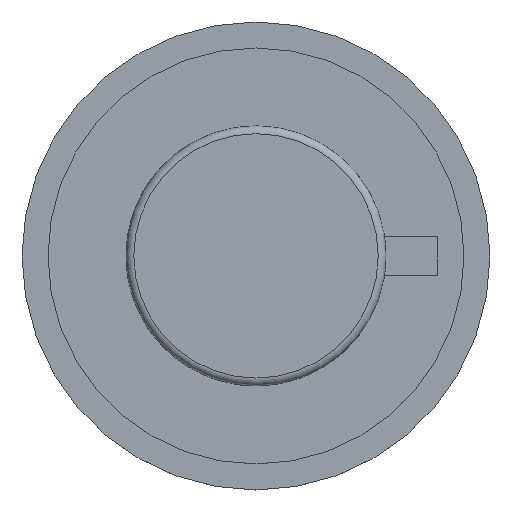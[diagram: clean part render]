
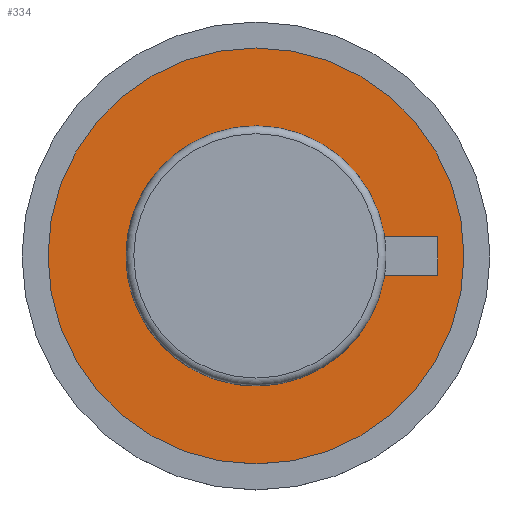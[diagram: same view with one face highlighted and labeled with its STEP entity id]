
A CAD part, top view. The second image highlights one B-rep face of the part: STEP entity #334.
In plain terms, the highlighted planar face has unit normal (0, 0, 1).
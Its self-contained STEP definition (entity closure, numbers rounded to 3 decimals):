
#33 = CYLINDRICAL_SURFACE('',#34,10.);
#34 = AXIS2_PLACEMENT_3D('',#35,#36,#37);
#35 = CARTESIAN_POINT('',(26.,40.,12.5));
#36 = DIRECTION('',(0.,0.,1.));
#37 = DIRECTION('',(1.,0.,-0.));
#133 = VERTEX_POINT('',#134);
#134 = CARTESIAN_POINT('',(35.887,41.5,12.6));
#147 = PLANE('',#148);
#148 = AXIS2_PLACEMENT_3D('',#149,#150,#151);
#149 = CARTESIAN_POINT('',(35.,41.5,12.5));
#150 = DIRECTION('',(-0.,1.,0.));
#151 = DIRECTION('',(0.,0.,1.));
#158 = EDGE_CURVE('',#133,#159,#161,.T.);
#159 = VERTEX_POINT('',#160);
#160 = CARTESIAN_POINT('',(35.887,38.5,12.6));
#161 = SURFACE_CURVE('',#162,(#167,#174),.PCURVE_S1.);
#162 = CIRCLE('',#163,10.);
#163 = AXIS2_PLACEMENT_3D('',#164,#165,#166);
#164 = CARTESIAN_POINT('',(26.,40.,12.6));
#165 = DIRECTION('',(0.,0.,1.));
#166 = DIRECTION('',(1.,0.,-0.));
#167 = PCURVE('',#33,#168);
#168 = DEFINITIONAL_REPRESENTATION('',(#169),#173);
#169 = LINE('',#170,#171);
#170 = CARTESIAN_POINT('',(0.,0.1));
#171 = VECTOR('',#172,1.);
#172 = DIRECTION('',(1.,0.));
#173 = ( GEOMETRIC_REPRESENTATION_CONTEXT(2) 
PARAMETRIC_REPRESENTATION_CONTEXT() REPRESENTATION_CONTEXT('2D SPACE',''
  ) );
#174 = PCURVE('',#175,#180);
#175 = PLANE('',#176);
#176 = AXIS2_PLACEMENT_3D('',#177,#178,#179);
#177 = CARTESIAN_POINT('',(26.,40.,12.6));
#178 = DIRECTION('',(0.,0.,1.));
#179 = DIRECTION('',(1.,0.,-0.));
#180 = DEFINITIONAL_REPRESENTATION('',(#181),#185);
#181 = CIRCLE('',#182,10.);
#182 = AXIS2_PLACEMENT_2D('',#183,#184);
#183 = CARTESIAN_POINT('',(0.,0.));
#184 = DIRECTION('',(1.,0.));
#185 = ( GEOMETRIC_REPRESENTATION_CONTEXT(2) 
PARAMETRIC_REPRESENTATION_CONTEXT() REPRESENTATION_CONTEXT('2D SPACE',''
  ) );
#200 = PLANE('',#201);
#201 = AXIS2_PLACEMENT_3D('',#202,#203,#204);
#202 = CARTESIAN_POINT('',(35.,38.5,12.5));
#203 = DIRECTION('',(-0.,1.,0.));
#204 = DIRECTION('',(0.,0.,1.));
#276 = PLANE('',#277);
#277 = AXIS2_PLACEMENT_3D('',#278,#279,#280);
#278 = CARTESIAN_POINT('',(40.,38.5,12.5));
#279 = DIRECTION('',(1.,0.,-0.));
#280 = DIRECTION('',(0.,0.,1.));
#292 = VERTEX_POINT('',#293);
#293 = CARTESIAN_POINT('',(40.,38.5,12.6));
#314 = EDGE_CURVE('',#292,#159,#315,.T.);
#315 = SURFACE_CURVE('',#316,(#320,#326),.PCURVE_S1.);
#316 = LINE('',#317,#318);
#317 = CARTESIAN_POINT('',(30.5,38.5,12.6));
#318 = VECTOR('',#319,1.);
#319 = DIRECTION('',(-1.,-0.,0.));
#320 = PCURVE('',#200,#321);
#321 = DEFINITIONAL_REPRESENTATION('',(#322),#325);
#322 = B_SPLINE_CURVE_WITH_KNOTS('',1,(#323,#324),.UNSPECIFIED.,.F.,.F.,
  (2,2),(-9.5,-4.5),.PIECEWISE_BEZIER_KNOTS.);
#323 = CARTESIAN_POINT('',(0.1,5.));
#324 = CARTESIAN_POINT('',(0.1,0.));
#325 = ( GEOMETRIC_REPRESENTATION_CONTEXT(2) 
PARAMETRIC_REPRESENTATION_CONTEXT() REPRESENTATION_CONTEXT('2D SPACE',''
  ) );
#326 = PCURVE('',#175,#327);
#327 = DEFINITIONAL_REPRESENTATION('',(#328),#331);
#328 = B_SPLINE_CURVE_WITH_KNOTS('',1,(#329,#330),.UNSPECIFIED.,.F.,.F.,
  (2,2),(-9.5,-4.5),.PIECEWISE_BEZIER_KNOTS.);
#329 = CARTESIAN_POINT('',(14.,-1.5));
#330 = CARTESIAN_POINT('',(9.,-1.5));
#331 = ( GEOMETRIC_REPRESENTATION_CONTEXT(2) 
PARAMETRIC_REPRESENTATION_CONTEXT() REPRESENTATION_CONTEXT('2D SPACE',''
  ) );
#334 = ADVANCED_FACE('',(#335,#366),#175,.T.);
#335 = FACE_BOUND('',#336,.T.);
#336 = EDGE_LOOP('',(#337));
#337 = ORIENTED_EDGE('',*,*,#338,.T.);
#338 = EDGE_CURVE('',#339,#339,#341,.T.);
#339 = VERTEX_POINT('',#340);
#340 = CARTESIAN_POINT('',(42.,40.,12.6));
#341 = SURFACE_CURVE('',#342,(#347,#354),.PCURVE_S1.);
#342 = CIRCLE('',#343,16.);
#343 = AXIS2_PLACEMENT_3D('',#344,#345,#346);
#344 = CARTESIAN_POINT('',(26.,40.,12.6));
#345 = DIRECTION('',(0.,0.,1.));
#346 = DIRECTION('',(1.,0.,-0.));
#347 = PCURVE('',#175,#348);
#348 = DEFINITIONAL_REPRESENTATION('',(#349),#353);
#349 = CIRCLE('',#350,16.);
#350 = AXIS2_PLACEMENT_2D('',#351,#352);
#351 = CARTESIAN_POINT('',(0.,0.));
#352 = DIRECTION('',(1.,0.));
#353 = ( GEOMETRIC_REPRESENTATION_CONTEXT(2) 
PARAMETRIC_REPRESENTATION_CONTEXT() REPRESENTATION_CONTEXT('2D SPACE',''
  ) );
#354 = PCURVE('',#355,#360);
#355 = CYLINDRICAL_SURFACE('',#356,16.);
#356 = AXIS2_PLACEMENT_3D('',#357,#358,#359);
#357 = CARTESIAN_POINT('',(26.,40.,11.6));
#358 = DIRECTION('',(0.,0.,1.));
#359 = DIRECTION('',(1.,0.,-0.));
#360 = DEFINITIONAL_REPRESENTATION('',(#361),#365);
#361 = LINE('',#362,#363);
#362 = CARTESIAN_POINT('',(0.,1.));
#363 = VECTOR('',#364,1.);
#364 = DIRECTION('',(1.,0.));
#365 = ( GEOMETRIC_REPRESENTATION_CONTEXT(2) 
PARAMETRIC_REPRESENTATION_CONTEXT() REPRESENTATION_CONTEXT('2D SPACE',''
  ) );
#366 = FACE_BOUND('',#367,.T.);
#367 = EDGE_LOOP('',(#368,#369,#390,#409));
#368 = ORIENTED_EDGE('',*,*,#158,.F.);
#369 = ORIENTED_EDGE('',*,*,#370,.F.);
#370 = EDGE_CURVE('',#371,#133,#373,.T.);
#371 = VERTEX_POINT('',#372);
#372 = CARTESIAN_POINT('',(40.,41.5,12.6));
#373 = SURFACE_CURVE('',#374,(#378,#384),.PCURVE_S1.);
#374 = LINE('',#375,#376);
#375 = CARTESIAN_POINT('',(30.5,41.5,12.6));
#376 = VECTOR('',#377,1.);
#377 = DIRECTION('',(-1.,-0.,0.));
#378 = PCURVE('',#175,#379);
#379 = DEFINITIONAL_REPRESENTATION('',(#380),#383);
#380 = B_SPLINE_CURVE_WITH_KNOTS('',1,(#381,#382),.UNSPECIFIED.,.F.,.F.,
  (2,2),(-9.5,-4.5),.PIECEWISE_BEZIER_KNOTS.);
#381 = CARTESIAN_POINT('',(14.,1.5));
#382 = CARTESIAN_POINT('',(9.,1.5));
#383 = ( GEOMETRIC_REPRESENTATION_CONTEXT(2) 
PARAMETRIC_REPRESENTATION_CONTEXT() REPRESENTATION_CONTEXT('2D SPACE',''
  ) );
#384 = PCURVE('',#147,#385);
#385 = DEFINITIONAL_REPRESENTATION('',(#386),#389);
#386 = B_SPLINE_CURVE_WITH_KNOTS('',1,(#387,#388),.UNSPECIFIED.,.F.,.F.,
  (2,2),(-9.5,-4.5),.PIECEWISE_BEZIER_KNOTS.);
#387 = CARTESIAN_POINT('',(0.1,5.));
#388 = CARTESIAN_POINT('',(0.1,0.));
#389 = ( GEOMETRIC_REPRESENTATION_CONTEXT(2) 
PARAMETRIC_REPRESENTATION_CONTEXT() REPRESENTATION_CONTEXT('2D SPACE',''
  ) );
#390 = ORIENTED_EDGE('',*,*,#391,.F.);
#391 = EDGE_CURVE('',#292,#371,#392,.T.);
#392 = SURFACE_CURVE('',#393,(#397,#403),.PCURVE_S1.);
#393 = LINE('',#394,#395);
#394 = CARTESIAN_POINT('',(40.,39.25,12.6));
#395 = VECTOR('',#396,1.);
#396 = DIRECTION('',(-0.,1.,0.));
#397 = PCURVE('',#175,#398);
#398 = DEFINITIONAL_REPRESENTATION('',(#399),#402);
#399 = B_SPLINE_CURVE_WITH_KNOTS('',1,(#400,#401),.UNSPECIFIED.,.F.,.F.,
  (2,2),(-0.75,2.25),.PIECEWISE_BEZIER_KNOTS.);
#400 = CARTESIAN_POINT('',(14.,-1.5));
#401 = CARTESIAN_POINT('',(14.,1.5));
#402 = ( GEOMETRIC_REPRESENTATION_CONTEXT(2) 
PARAMETRIC_REPRESENTATION_CONTEXT() REPRESENTATION_CONTEXT('2D SPACE',''
  ) );
#403 = PCURVE('',#276,#404);
#404 = DEFINITIONAL_REPRESENTATION('',(#405),#408);
#405 = B_SPLINE_CURVE_WITH_KNOTS('',1,(#406,#407),.UNSPECIFIED.,.F.,.F.,
  (2,2),(-0.75,2.25),.PIECEWISE_BEZIER_KNOTS.);
#406 = CARTESIAN_POINT('',(0.1,0.));
#407 = CARTESIAN_POINT('',(0.1,-3.));
#408 = ( GEOMETRIC_REPRESENTATION_CONTEXT(2) 
PARAMETRIC_REPRESENTATION_CONTEXT() REPRESENTATION_CONTEXT('2D SPACE',''
  ) );
#409 = ORIENTED_EDGE('',*,*,#314,.T.);
